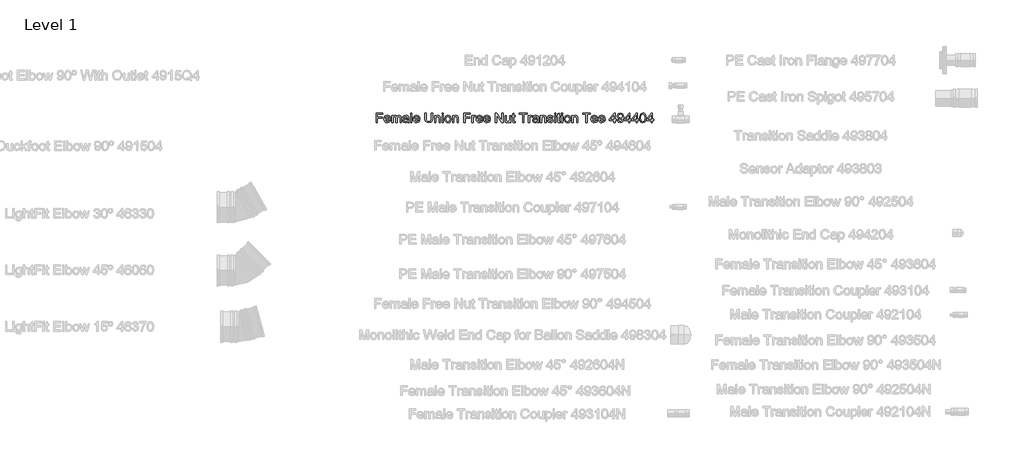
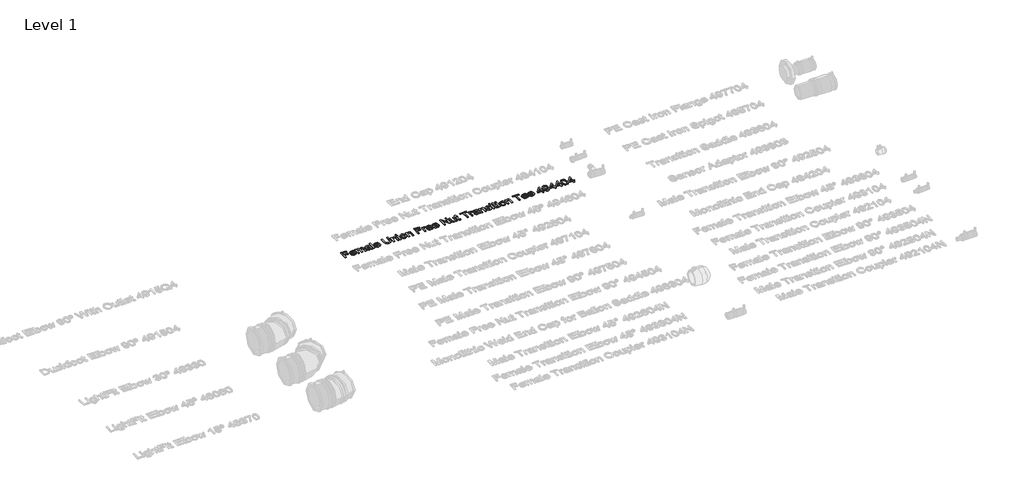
# One storey, part 27 of 38: 1 proxy.
"""IFC4 building model written with IfcOpenShell, lengths in millimetres."""

from ifc_helpers import new_model, si_unit, origin, origin_with_axes, place, context, project, spatial, polyline, outline, extrude, element, save

model = new_model("IFC4")

# Units and contexts
model_context = context("Model", 3, world=origin())
ifc_project = project(units=[si_unit("LENGTHUNIT", "METRE", prefix="MILLI")], contexts=[model_context])

# Site, building, storey
site = spatial("IfcSite", under=ifc_project)
building = spatial("IfcBuilding", under=site)
storey = spatial("IfcBuildingStorey", under=building, Name="Level 1", Elevation=0.0)

# Proxy
placement = place(None, origin())
element("IfcBuildingElementProxy", 1, Name="100 mm Arial", ObjectType="100 mm Arial", at=placement, inside=storey, context=model_context, shape_type="SweptSolid", body=[
    extrude(outline(polyline([(15488.185494, 4731.8693943), (15488.185494, 4790.9463174), (15527.8778017, 4790.9463174), (15527.8778017, 4783.561702), (15495.5701094, 4783.561702), (15495.5701094, 4766.0232405), (15523.2624171, 4766.0232405), (15523.2624171, 4758.6386251), (15495.5701094, 4758.6386251), (15495.5701094, 4731.8693943), (15488.185494, 4731.8693943)])), origin_with_axes(), (0.0, 0.0, 1.0), 5.0),
    extrude(outline(polyline([(15567.4835709, 4744.7924713), (15574.7239556, 4743.8693943), (15567.9523209, 4734.3357405), (15555.3393402, 4730.9463174), (15546.6746767, 4732.4084568), (15540.0076094, 4736.7948751), (15535.7564075, 4743.8207165), (15534.3393402, 4753.2011251), (15535.7708306, 4762.8970386), (15540.0653017, 4770.1482405), (15546.6422248, 4774.6698751), (15554.9210709, 4776.1770866), (15562.9421046, 4774.6734809), (15569.3513594, 4770.1626636), (15573.5538834, 4762.9258847), (15574.9547248, 4753.2443943), (15574.9114556, 4751.2540097), (15541.7239556, 4751.2540097), (15545.9715517, 4741.6626636), (15555.4835709, 4738.3309328), (15562.7239556, 4739.874202), (15567.4835709, 4744.7924713)]), holes=[polyline([(15541.7239556, 4758.6386251), (15567.5701094, 4758.6386251), (15564.6133786, 4765.3309328), (15554.8922248, 4768.7924713), (15545.7984748, 4766.030452), (15541.7239556, 4758.6386251)])]), origin_with_axes(), (0.0, 0.0, 1.0), 5.0),
    extrude(outline(polyline([(15582.3393402, 4731.8693943), (15582.3393402, 4775.2540097), (15589.7239556, 4775.2540097), (15589.7239556, 4768.1145866), (15594.8008786, 4773.9631443), (15602.0268402, 4776.1770866), (15609.4258786, 4773.9198751), (15613.4931863, 4767.5953559), (15619.2552056, 4774.031654), (15626.5316479, 4776.1770866), (15636.1878979, 4772.6073751), (15639.5701094, 4761.609779), (15639.5701094, 4731.8693943), (15632.185494, 4731.8693943), (15632.185494, 4758.436702), (15631.5003979, 4764.6025674), (15629.0196286, 4767.6386251), (15624.8008786, 4768.7924713), (15617.5388594, 4765.8357405), (15614.6470325, 4756.359779), (15614.6470325, 4731.8693943), (15607.2624171, 4731.8693943), (15607.2624171, 4759.2588174), (15605.5532825, 4766.4126636), (15599.9499171, 4768.7924713), (15594.4835709, 4767.2059328), (15590.8489556, 4762.561702), (15589.7239556, 4753.749202), (15589.7239556, 4731.8693943), (15582.3393402, 4731.8693943)])), origin_with_axes(), (0.0, 0.0, 1.0), 5.0),
    extrude(outline(polyline([(15678.3393402, 4737.4078559), (15671.1782825, 4732.4030482), (15663.2672248, 4730.9463174), (15652.5436671, 4734.4511251), (15648.8008786, 4743.4078559), (15650.2143402, 4749.249202), (15653.9282825, 4753.4895866), (15659.0989556, 4755.9126636), (15665.4883786, 4757.0232405), (15678.2960709, 4759.561702), (15678.3393402, 4761.2059328), (15676.3056863, 4766.6578559), (15668.1422248, 4768.7924713), (15660.6710709, 4767.3717982), (15657.1085709, 4762.3309328), (15649.7239556, 4763.2540097), (15652.9186671, 4770.4655482), (15659.3513594, 4774.6915097), (15669.0941479, 4776.1770866), (15678.0436671, 4774.8645866), (15683.0989556, 4771.5689136), (15685.3633786, 4766.5568943), (15685.7239556, 4760.0953559), (15685.7239556, 4750.9078559), (15686.0989556, 4738.078529), (15687.5701094, 4731.8693943), (15680.185494, 4731.8693943), (15678.3393402, 4737.4078559)]), holes=[polyline([(15678.3393402, 4752.1770866), (15666.4258786, 4749.9126636), (15660.0725132, 4748.7155482), (15657.1951094, 4746.7684328), (15656.185494, 4743.9270866), (15658.3850132, 4739.9318943), (15664.8393402, 4738.3309328), (15672.310494, 4740.0977597), (15677.1278017, 4744.374202), (15678.2960709, 4750.0857405), (15678.3393402, 4752.1770866)])]), origin_with_axes(), (0.0, 0.0, 1.0), 5.0),
    extrude(outline(polyline([(15695.8778017, 4731.8693943), (15695.8778017, 4790.9463174), (15703.2624171, 4790.9463174), (15703.2624171, 4731.8693943), (15695.8778017, 4731.8693943)])), origin_with_axes(), (0.0, 0.0, 1.0), 5.0),
    extrude(outline(polyline([(15744.7143402, 4744.7924713), (15751.9547248, 4743.8693943), (15745.1830902, 4734.3357405), (15732.5701094, 4730.9463174), (15723.9054459, 4732.4084568), (15717.2383786, 4736.7948751), (15712.9871767, 4743.8207165), (15711.5701094, 4753.2011251), (15713.0015998, 4762.8970386), (15717.2960709, 4770.1482405), (15723.872994, 4774.6698751), (15732.1518402, 4776.1770866), (15740.1728738, 4774.6734809), (15746.5821286, 4770.1626636), (15750.7846527, 4762.9258847), (15752.185494, 4753.2443943), (15752.1422248, 4751.2540097), (15718.9547248, 4751.2540097), (15723.2023209, 4741.6626636), (15732.7143402, 4738.3309328), (15739.9547248, 4739.874202), (15744.7143402, 4744.7924713)]), holes=[polyline([(15718.9547248, 4758.6386251), (15744.8008786, 4758.6386251), (15741.8441479, 4765.3309328), (15732.122994, 4768.7924713), (15723.029244, 4766.030452), (15718.9547248, 4758.6386251)])]), origin_with_axes(), (0.0, 0.0, 1.0), 5.0),
    extrude(outline(polyline([(15822.3393402, 4790.9463174), (15829.7239556, 4790.9463174), (15829.7239556, 4756.8645866), (15827.7191479, 4742.7371828), (15820.4931863, 4734.2275674), (15806.7912632, 4730.9463174), (15793.2984748, 4733.8020866), (15785.8128979, 4742.0737213), (15783.5701094, 4756.8645866), (15783.5701094, 4790.9463174), (15790.9547248, 4790.9463174), (15790.9547248, 4757.124202), (15792.4114556, 4745.8669905), (15797.4162632, 4740.2924713), (15806.0989556, 4738.3309328), (15818.6037632, 4742.2107405), (15822.3393402, 4757.124202), (15822.3393402, 4790.9463174)])), origin_with_axes(), (0.0, 0.0, 1.0), 5.0),
    extrude(outline(polyline([(15841.7239556, 4731.8693943), (15841.7239556, 4775.2540097), (15849.1085709, 4775.2540097), (15849.1085709, 4769.1963174), (15854.7552056, 4774.4318943), (15862.4643402, 4776.1770866), (15869.4378979, 4774.7708366), (15874.1975132, 4771.078529), (15876.4114556, 4765.6482405), (15876.8008786, 4758.5088174), (15876.8008786, 4731.8693943), (15869.4162632, 4731.8693943), (15869.4162632, 4757.5136251), (15868.5653017, 4764.047279), (15865.5580902, 4767.5016059), (15860.4883786, 4768.7924713), (15852.4763594, 4765.8934328), (15849.1085709, 4754.8886251), (15849.1085709, 4731.8693943), (15841.7239556, 4731.8693943)])), origin_with_axes(), (0.0, 0.0, 1.0), 5.0),
    extrude(outline(polyline([(15886.9547248, 4731.8693943), (15886.9547248, 4775.2540097), (15894.3393402, 4775.2540097), (15894.3393402, 4731.8693943), (15886.9547248, 4731.8693943)])), origin_with_axes(), (0.0, 0.0, 1.0), 5.0),
    extrude(outline(polyline([(15886.9547248, 4783.561702), (15886.9547248, 4790.9463174), (15894.3393402, 4790.9463174), (15894.3393402, 4783.561702), (15886.9547248, 4783.561702)])), origin_with_axes(), (0.0, 0.0, 1.0), 5.0),
    extrude(outline(polyline([(15903.5701094, 4753.561702), (15905.1674652, 4764.0220386), (15909.9595325, 4771.374202), (15922.9691479, 4776.1770866), (15930.7269604, 4774.7149472), (15936.9234748, 4770.328529), (15940.9853738, 4763.3639857), (15942.3393402, 4754.1674713), (15939.9451094, 4741.0280482), (15932.9715517, 4733.592952), (15922.9691479, 4730.9463174), (15915.1175854, 4732.4030482), (15908.9282825, 4736.7732405), (15904.9096527, 4743.8838174), (15903.5701094, 4753.561702)]), holes=[polyline([(15910.9547248, 4753.5761251), (15914.372994, 4742.1314136), (15922.9691479, 4738.3309328), (15931.5364556, 4742.1530482), (15934.9547248, 4753.8068943), (15931.5148209, 4764.9919905), (15922.9691479, 4768.7924713), (15914.372994, 4765.0064136), (15910.9547248, 4753.5761251)])]), origin_with_axes(), (0.0, 0.0, 1.0), 5.0),
    extrude(outline(polyline([(15950.6470325, 4731.8693943), (15950.6470325, 4775.2540097), (15958.0316479, 4775.2540097), (15958.0316479, 4769.1963174), (15963.6782825, 4774.4318943), (15971.3874171, 4776.1770866), (15978.3609748, 4774.7708366), (15983.1205902, 4771.078529), (15985.3345325, 4765.6482405), (15985.7239556, 4758.5088174), (15985.7239556, 4731.8693943), (15978.3393402, 4731.8693943), (15978.3393402, 4757.5136251), (15977.4883786, 4764.047279), (15974.4811671, 4767.5016059), (15969.4114556, 4768.7924713), (15961.3994363, 4765.8934328), (15958.0316479, 4754.8886251), (15958.0316479, 4731.8693943), (15950.6470325, 4731.8693943)])), origin_with_axes(), (0.0, 0.0, 1.0), 5.0),
    extrude(outline(polyline([(16019.8778017, 4731.8693943), (16019.8778017, 4790.9463174), (16059.5701094, 4790.9463174), (16059.5701094, 4783.561702), (16027.2624171, 4783.561702), (16027.2624171, 4766.0232405), (16054.9547248, 4766.0232405), (16054.9547248, 4758.6386251), (16027.2624171, 4758.6386251), (16027.2624171, 4731.8693943), (16019.8778017, 4731.8693943)])), origin_with_axes(), (0.0, 0.0, 1.0), 5.0),
    extrude(outline(polyline([(16068.8008786, 4731.8693943), (16068.8008786, 4775.2540097), (16075.2624171, 4775.2540097), (16075.2624171, 4768.8357405), (16079.8489556, 4774.749202), (16084.4643402, 4776.1770866), (16091.8778017, 4773.8982405), (16089.4114556, 4767.2780482), (16084.2191479, 4768.7924713), (16080.0436671, 4767.3357405), (16077.3826094, 4763.297279), (16076.185494, 4754.672279), (16076.185494, 4731.8693943), (16068.8008786, 4731.8693943)])), origin_with_axes(), (0.0, 0.0, 1.0), 5.0),
    extrude(outline(polyline([(16126.8681863, 4744.7924713), (16134.1085709, 4743.8693943), (16127.3369363, 4734.3357405), (16114.7239556, 4730.9463174), (16106.0592921, 4732.4084568), (16099.3922248, 4736.7948751), (16095.1410229, 4743.8207165), (16093.7239556, 4753.2011251), (16095.1554459, 4762.8970386), (16099.4499171, 4770.1482405), (16106.0268402, 4774.6698751), (16114.3056863, 4776.1770866), (16122.32672, 4774.6734809), (16128.7359748, 4770.1626636), (16132.9384988, 4762.9258847), (16134.3393402, 4753.2443943), (16134.2960709, 4751.2540097), (16101.1085709, 4751.2540097), (16105.3561671, 4741.6626636), (16114.8681863, 4738.3309328), (16122.1085709, 4739.874202), (16126.8681863, 4744.7924713)]), holes=[polyline([(16101.1085709, 4758.6386251), (16126.9547248, 4758.6386251), (16123.997994, 4765.3309328), (16114.2768402, 4768.7924713), (16105.1830902, 4766.030452), (16101.1085709, 4758.6386251)])]), origin_with_axes(), (0.0, 0.0, 1.0), 5.0),
    extrude(outline(polyline([(16172.0989556, 4744.7924713), (16179.3393402, 4743.8693943), (16172.5677056, 4734.3357405), (16159.9547248, 4730.9463174), (16151.2900613, 4732.4084568), (16144.622994, 4736.7948751), (16140.3717921, 4743.8207165), (16138.9547248, 4753.2011251), (16140.3862152, 4762.8970386), (16144.6806863, 4770.1482405), (16151.2576094, 4774.6698751), (16159.5364556, 4776.1770866), (16167.5574892, 4774.6734809), (16173.966744, 4770.1626636), (16178.1692681, 4762.9258847), (16179.5701094, 4753.2443943), (16179.5268402, 4751.2540097), (16146.3393402, 4751.2540097), (16150.5869363, 4741.6626636), (16160.0989556, 4738.3309328), (16167.3393402, 4739.874202), (16172.0989556, 4744.7924713)]), holes=[polyline([(16146.3393402, 4758.6386251), (16172.185494, 4758.6386251), (16169.2287632, 4765.3309328), (16159.5076094, 4768.7924713), (16150.4138594, 4766.030452), (16146.3393402, 4758.6386251)])]), origin_with_axes(), (0.0, 0.0, 1.0), 5.0),
    extrude(outline(polyline([(16210.9547248, 4731.8693943), (16210.9547248, 4790.9463174), (16218.8585709, 4790.9463174), (16249.7239556, 4744.1434328), (16249.7239556, 4790.9463174), (16257.1085709, 4790.9463174), (16257.1085709, 4731.8693943), (16249.2047248, 4731.8693943), (16218.3393402, 4778.686702), (16218.3393402, 4731.8693943), (16210.9547248, 4731.8693943)])), origin_with_axes(), (0.0, 0.0, 1.0), 5.0),
    extrude(outline(polyline([(16296.8008786, 4731.8693943), (16296.8008786, 4739.3261251), (16291.0172248, 4733.0412693), (16283.4739556, 4730.9463174), (16276.529244, 4732.4174713), (16271.7407825, 4736.109779), (16269.5412632, 4741.547279), (16269.1085709, 4748.4126636), (16269.1085709, 4775.2540097), (16276.4931863, 4775.2540097), (16276.4931863, 4751.8886251), (16276.9403017, 4744.359779), (16279.8609748, 4739.9391059), (16285.3633786, 4738.3309328), (16291.529244, 4739.9751636), (16295.6037632, 4744.453529), (16296.8008786, 4752.6818943), (16296.8008786, 4775.2540097), (16304.185494, 4775.2540097), (16304.185494, 4731.8693943), (16296.8008786, 4731.8693943)])), origin_with_axes(), (0.0, 0.0, 1.0), 5.0),
    extrude(outline(polyline([(16330.0316479, 4738.0280482), (16330.9547248, 4731.6530482), (16325.4306863, 4730.9463174), (16319.2431863, 4732.172279), (16316.1566479, 4735.3886251), (16315.2624171, 4743.7684328), (16315.2624171, 4767.8693943), (16309.7239556, 4767.8693943), (16309.7239556, 4775.2540097), (16315.2624171, 4775.2540097), (16315.2624171, 4785.797279), (16322.6470325, 4790.1386251), (16322.6470325, 4775.2540097), (16330.0316479, 4775.2540097), (16330.0316479, 4767.8693943), (16322.6470325, 4767.8693943), (16322.6470325, 4743.984779), (16323.0364556, 4740.1770866), (16324.2984748, 4738.828529), (16326.8153017, 4738.3309328), (16330.0316479, 4738.0280482)])), origin_with_axes(), (0.0, 0.0, 1.0), 5.0),
    extrude(outline(polyline([(16376.185494, 4731.8693943), (16376.185494, 4783.561702), (16356.8008786, 4783.561702), (16356.8008786, 4790.9463174), (16402.9547248, 4790.9463174), (16402.9547248, 4783.561702), (16383.5701094, 4783.561702), (16383.5701094, 4731.8693943), (16376.185494, 4731.8693943)])), origin_with_axes(), (0.0, 0.0, 1.0), 5.0),
    extrude(outline(polyline([(16410.3393402, 4731.8693943), (16410.3393402, 4775.2540097), (16416.8008786, 4775.2540097), (16416.8008786, 4768.8357405), (16421.3874171, 4774.749202), (16426.0028017, 4776.1770866), (16433.4162632, 4773.8982405), (16430.9499171, 4767.2780482), (16425.7576094, 4768.7924713), (16421.5821286, 4767.3357405), (16418.9210709, 4763.297279), (16417.7239556, 4754.672279), (16417.7239556, 4731.8693943), (16410.3393402, 4731.8693943)])), origin_with_axes(), (0.0, 0.0, 1.0), 5.0),
    extrude(outline(polyline([(16465.7239556, 4737.4078559), (16458.5628979, 4732.4030482), (16450.6518402, 4730.9463174), (16439.9282825, 4734.4511251), (16436.185494, 4743.4078559), (16437.5989556, 4749.249202), (16441.3128979, 4753.4895866), (16446.4835709, 4755.9126636), (16452.872994, 4757.0232405), (16465.6806863, 4759.561702), (16465.7239556, 4761.2059328), (16463.6903017, 4766.6578559), (16455.5268402, 4768.7924713), (16448.0556863, 4767.3717982), (16444.4931863, 4762.3309328), (16437.1085709, 4763.2540097), (16440.3032825, 4770.4655482), (16446.7359748, 4774.6915097), (16456.4787632, 4776.1770866), (16465.4282825, 4774.8645866), (16470.4835709, 4771.5689136), (16472.747994, 4766.5568943), (16473.1085709, 4760.0953559), (16473.1085709, 4750.9078559), (16473.4835709, 4738.078529), (16474.9547248, 4731.8693943), (16467.5701094, 4731.8693943), (16465.7239556, 4737.4078559)]), holes=[polyline([(16465.7239556, 4752.1770866), (16453.810494, 4749.9126636), (16447.4571286, 4748.7155482), (16444.5797248, 4746.7684328), (16443.5701094, 4743.9270866), (16445.7696286, 4739.9318943), (16452.2239556, 4738.3309328), (16459.6951094, 4740.0977597), (16464.5124171, 4744.374202), (16465.6806863, 4750.0857405), (16465.7239556, 4752.1770866)])]), origin_with_axes(), (0.0, 0.0, 1.0), 5.0),
    extrude(outline(polyline([(16483.2624171, 4731.8693943), (16483.2624171, 4775.2540097), (16490.6470325, 4775.2540097), (16490.6470325, 4769.1963174), (16496.2936671, 4774.4318943), (16504.0028017, 4776.1770866), (16510.9763594, 4774.7708366), (16515.7359748, 4771.078529), (16517.9499171, 4765.6482405), (16518.3393402, 4758.5088174), (16518.3393402, 4731.8693943), (16510.9547248, 4731.8693943), (16510.9547248, 4757.5136251), (16510.1037632, 4764.047279), (16507.0965517, 4767.5016059), (16502.0268402, 4768.7924713), (16494.0148209, 4765.8934328), (16490.6470325, 4754.8886251), (16490.6470325, 4731.8693943), (16483.2624171, 4731.8693943)])), origin_with_axes(), (0.0, 0.0, 1.0), 5.0),
    extrude(outline(polyline([(16525.7239556, 4744.7924713), (16533.1085709, 4745.7155482), (16536.5268402, 4740.234779), (16544.3585709, 4738.3309328), (16551.8874171, 4740.0761251), (16554.3393402, 4744.172279), (16551.872994, 4747.4895866), (16544.2720325, 4749.5953559), (16533.1518402, 4753.2083366), (16528.2984748, 4757.4270866), (16526.6470325, 4763.3838174), (16527.9739556, 4768.8862213), (16531.5941479, 4773.0905482), (16536.2888594, 4775.2756443), (16542.6422248, 4776.1770866), (16551.6278017, 4774.7275674), (16557.3393402, 4770.8044905), (16559.8778017, 4764.1770866), (16552.4931863, 4763.2540097), (16549.716744, 4767.328529), (16543.2191479, 4768.7924713), (16536.1518402, 4767.3934328), (16534.0316479, 4764.1338174), (16534.9114556, 4761.984779), (16537.6662632, 4760.3549713), (16544.0268402, 4758.7828559), (16554.8657825, 4755.3068943), (16559.8994363, 4751.3693943), (16561.7239556, 4744.9511251), (16559.5821286, 4737.8838174), (16553.4018402, 4732.7564136), (16544.2576094, 4730.9463174), (16531.3778017, 4734.436702), (16525.7239556, 4744.7924713)])), origin_with_axes(), (0.0, 0.0, 1.0), 5.0),
    extrude(outline(polyline([(16570.0316479, 4731.8693943), (16570.0316479, 4775.2540097), (16577.4162632, 4775.2540097), (16577.4162632, 4731.8693943), (16570.0316479, 4731.8693943)])), origin_with_axes(), (0.0, 0.0, 1.0), 5.0),
    extrude(outline(polyline([(16570.0316479, 4783.561702), (16570.0316479, 4790.9463174), (16577.4162632, 4790.9463174), (16577.4162632, 4783.561702), (16570.0316479, 4783.561702)])), origin_with_axes(), (0.0, 0.0, 1.0), 5.0),
    extrude(outline(polyline([(16604.185494, 4738.0280482), (16605.1085709, 4731.6530482), (16599.5845325, 4730.9463174), (16593.3970325, 4732.172279), (16590.310494, 4735.3886251), (16589.4162632, 4743.7684328), (16589.4162632, 4767.8693943), (16583.8778017, 4767.8693943), (16583.8778017, 4775.2540097), (16589.4162632, 4775.2540097), (16589.4162632, 4785.797279), (16596.8008786, 4790.1386251), (16596.8008786, 4775.2540097), (16604.185494, 4775.2540097), (16604.185494, 4767.8693943), (16596.8008786, 4767.8693943), (16596.8008786, 4743.984779), (16597.1903017, 4740.1770866), (16598.4523209, 4738.828529), (16600.9691479, 4738.3309328), (16604.185494, 4738.0280482)])), origin_with_axes(), (0.0, 0.0, 1.0), 5.0),
    extrude(outline(polyline([(16611.5701094, 4731.8693943), (16611.5701094, 4775.2540097), (16618.9547248, 4775.2540097), (16618.9547248, 4731.8693943), (16611.5701094, 4731.8693943)])), origin_with_axes(), (0.0, 0.0, 1.0), 5.0),
    extrude(outline(polyline([(16611.5701094, 4783.561702), (16611.5701094, 4790.9463174), (16618.9547248, 4790.9463174), (16618.9547248, 4783.561702), (16611.5701094, 4783.561702)])), origin_with_axes(), (0.0, 0.0, 1.0), 5.0),
    extrude(outline(polyline([(16628.185494, 4753.561702), (16629.7828498, 4764.0220386), (16634.5749171, 4771.374202), (16647.5845325, 4776.1770866), (16655.342345, 4774.7149472), (16661.5388594, 4770.328529), (16665.6007584, 4763.3639857), (16666.9547248, 4754.1674713), (16664.560494, 4741.0280482), (16657.5869363, 4733.592952), (16647.5845325, 4730.9463174), (16639.73297, 4732.4030482), (16633.5436671, 4736.7732405), (16629.5250373, 4743.8838174), (16628.185494, 4753.561702)]), holes=[polyline([(16635.5701094, 4753.5761251), (16638.9883786, 4742.1314136), (16647.5845325, 4738.3309328), (16656.1518402, 4742.1530482), (16659.5701094, 4753.8068943), (16656.1302056, 4764.9919905), (16647.5845325, 4768.7924713), (16638.9883786, 4765.0064136), (16635.5701094, 4753.5761251)])]), origin_with_axes(), (0.0, 0.0, 1.0), 5.0),
    extrude(outline(polyline([(16675.2624171, 4731.8693943), (16675.2624171, 4775.2540097), (16682.6470325, 4775.2540097), (16682.6470325, 4769.1963174), (16688.2936671, 4774.4318943), (16696.0028017, 4776.1770866), (16702.9763594, 4774.7708366), (16707.7359748, 4771.078529), (16709.9499171, 4765.6482405), (16710.3393402, 4758.5088174), (16710.3393402, 4731.8693943), (16702.9547248, 4731.8693943), (16702.9547248, 4757.5136251), (16702.1037632, 4764.047279), (16699.0965517, 4767.5016059), (16694.0268402, 4768.7924713), (16686.0148209, 4765.8934328), (16682.6470325, 4754.8886251), (16682.6470325, 4731.8693943), (16675.2624171, 4731.8693943)])), origin_with_axes(), (0.0, 0.0, 1.0), 5.0),
    extrude(outline(polyline([(16759.2624171, 4731.8693943), (16759.2624171, 4783.561702), (16739.8778017, 4783.561702), (16739.8778017, 4790.9463174), (16786.0316479, 4790.9463174), (16786.0316479, 4783.561702), (16766.6470325, 4783.561702), (16766.6470325, 4731.8693943), (16759.2624171, 4731.8693943)])), origin_with_axes(), (0.0, 0.0, 1.0), 5.0),
    extrude(outline(polyline([(16823.7912632, 4744.7924713), (16831.0316479, 4743.8693943), (16824.2600132, 4734.3357405), (16811.6470325, 4730.9463174), (16802.982369, 4732.4084568), (16796.3153017, 4736.7948751), (16792.0640998, 4743.8207165), (16790.6470325, 4753.2011251), (16792.0785229, 4762.8970386), (16796.372994, 4770.1482405), (16802.9499171, 4774.6698751), (16811.2287632, 4776.1770866), (16819.2497969, 4774.6734809), (16825.6590517, 4770.1626636), (16829.8615757, 4762.9258847), (16831.2624171, 4753.2443943), (16831.2191479, 4751.2540097), (16798.0316479, 4751.2540097), (16802.279244, 4741.6626636), (16811.7912632, 4738.3309328), (16819.0316479, 4739.874202), (16823.7912632, 4744.7924713)]), holes=[polyline([(16798.0316479, 4758.6386251), (16823.8778017, 4758.6386251), (16820.9210709, 4765.3309328), (16811.1999171, 4768.7924713), (16802.1061671, 4766.030452), (16798.0316479, 4758.6386251)])]), origin_with_axes(), (0.0, 0.0, 1.0), 5.0),
    extrude(outline(polyline([(16869.0220325, 4744.7924713), (16876.2624171, 4743.8693943), (16869.4907825, 4734.3357405), (16856.8778017, 4730.9463174), (16848.2131382, 4732.4084568), (16841.5460709, 4736.7948751), (16837.294869, 4743.8207165), (16835.8778017, 4753.2011251), (16837.3092921, 4762.8970386), (16841.6037632, 4770.1482405), (16848.1806863, 4774.6698751), (16856.4595325, 4776.1770866), (16864.4805661, 4774.6734809), (16870.8898209, 4770.1626636), (16875.092345, 4762.9258847), (16876.4931863, 4753.2443943), (16876.4499171, 4751.2540097), (16843.2624171, 4751.2540097), (16847.5100132, 4741.6626636), (16857.0220325, 4738.3309328), (16864.2624171, 4739.874202), (16869.0220325, 4744.7924713)]), holes=[polyline([(16843.2624171, 4758.6386251), (16869.1085709, 4758.6386251), (16866.1518402, 4765.3309328), (16856.4306863, 4768.7924713), (16847.3369363, 4766.030452), (16843.2624171, 4758.6386251)])]), origin_with_axes(), (0.0, 0.0, 1.0), 5.0),
    extrude(outline(polyline([(16929.1085709, 4731.8693943), (16929.1085709, 4745.7155482), (16902.3393402, 4745.7155482), (16902.3393402, 4753.1001636), (16930.9547248, 4790.0232405), (16936.4931863, 4790.0232405), (16936.4931863, 4753.1001636), (16943.8778017, 4753.1001636), (16943.8778017, 4745.7155482), (16936.4931863, 4745.7155482), (16936.4931863, 4731.8693943), (16929.1085709, 4731.8693943)]), holes=[polyline([(16929.1085709, 4753.1001636), (16929.1085709, 4775.9174713), (16911.4258786, 4753.1001636), (16929.1085709, 4753.1001636)])]), origin_with_axes(), (0.0, 0.0, 1.0), 5.0),
    extrude(outline(polyline([(16951.2624171, 4746.6386251), (16958.6470325, 4747.561702), (16961.9643402, 4740.516029), (16968.2528017, 4738.3309328), (16974.2311671, 4739.7371828), (16978.2840517, 4743.4943943), (16980.6999171, 4749.9126636), (16981.7672248, 4758.4799713), (16975.8177056, 4754.3261251), (16967.7191479, 4752.1770866), (16955.3802056, 4757.4270866), (16950.3393402, 4771.2588174), (16955.6253979, 4785.5376636), (16968.872994, 4790.9463174), (16979.3946286, 4787.859779), (16986.6350132, 4779.061702), (16989.1085709, 4762.5328559), (16986.6422248, 4744.5977597), (16979.3080902, 4734.436702), (16967.9066479, 4730.9463174), (16956.5556863, 4735.0641059), (16951.2624171, 4746.6386251)]), holes=[polyline([(16981.7239556, 4771.4318943), (16978.5364556, 4780.2876636), (16970.0701094, 4783.561702), (16961.185494, 4780.0352597), (16957.7239556, 4770.8982405), (16960.997994, 4762.7131443), (16969.8681863, 4759.561702), (16978.3850132, 4762.7131443), (16981.7239556, 4771.4318943)])]), origin_with_axes(), (0.0, 0.0, 1.0), 5.0),
    extrude(outline(polyline([(17019.5701094, 4731.8693943), (17019.5701094, 4745.7155482), (16992.8008786, 4745.7155482), (16992.8008786, 4753.1001636), (17021.4162632, 4790.0232405), (17026.9547248, 4790.0232405), (17026.9547248, 4753.1001636), (17034.3393402, 4753.1001636), (17034.3393402, 4745.7155482), (17026.9547248, 4745.7155482), (17026.9547248, 4731.8693943), (17019.5701094, 4731.8693943)]), holes=[polyline([(17019.5701094, 4753.1001636), (17019.5701094, 4775.9174713), (17001.8874171, 4753.1001636), (17019.5701094, 4753.1001636)])]), origin_with_axes(), (0.0, 0.0, 1.0), 5.0),
    extrude(outline(polyline([(17064.8008786, 4731.8693943), (17064.8008786, 4745.7155482), (17038.0316479, 4745.7155482), (17038.0316479, 4753.1001636), (17066.6470325, 4790.0232405), (17072.185494, 4790.0232405), (17072.185494, 4753.1001636), (17079.5701094, 4753.1001636), (17079.5701094, 4745.7155482), (17072.185494, 4745.7155482), (17072.185494, 4731.8693943), (17064.8008786, 4731.8693943)]), holes=[polyline([(17064.8008786, 4753.1001636), (17064.8008786, 4775.9174713), (17047.1181863, 4753.1001636), (17064.8008786, 4753.1001636)])]), origin_with_axes(), (0.0, 0.0, 1.0), 5.0),
    extrude(outline(polyline([(17086.0316479, 4760.9318943), (17088.2023209, 4777.9294905), (17094.6494363, 4787.7299713), (17105.4162632, 4790.9463174), (17114.0412632, 4789.0424713), (17119.997994, 4783.5544905), (17123.4595325, 4774.8141059), (17124.8008786, 4760.9318943), (17122.6518402, 4744.0064136), (17116.2263594, 4734.1842982), (17105.4162632, 4730.9463174), (17097.7431863, 4732.3525674), (17091.9162632, 4736.5713174), (17087.5028017, 4746.562904), (17086.0316479, 4760.9318943)]), holes=[polyline([(17093.4162632, 4760.9463174), (17096.8778017, 4742.6073751), (17105.4162632, 4738.3309328), (17113.9547248, 4742.6217982), (17117.4162632, 4760.9463174), (17114.0701094, 4779.0761251), (17105.3297248, 4783.561702), (17096.9931863, 4779.609779), (17093.4162632, 4760.9463174)])]), origin_with_axes(), (0.0, 0.0, 1.0), 5.0),
    extrude(outline(polyline([(17155.2624171, 4731.8693943), (17155.2624171, 4745.7155482), (17128.4931863, 4745.7155482), (17128.4931863, 4753.1001636), (17157.1085709, 4790.0232405), (17162.6470325, 4790.0232405), (17162.6470325, 4753.1001636), (17170.0316479, 4753.1001636), (17170.0316479, 4745.7155482), (17162.6470325, 4745.7155482), (17162.6470325, 4731.8693943), (17155.2624171, 4731.8693943)]), holes=[polyline([(17155.2624171, 4753.1001636), (17155.2624171, 4775.9174713), (17137.5797248, 4753.1001636), (17155.2624171, 4753.1001636)])]), origin_with_axes(), (0.0, 0.0, 1.0), 5.0),
])

save(model, "model.ifc")
